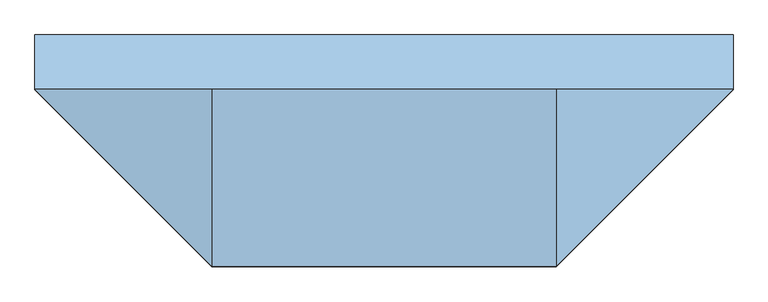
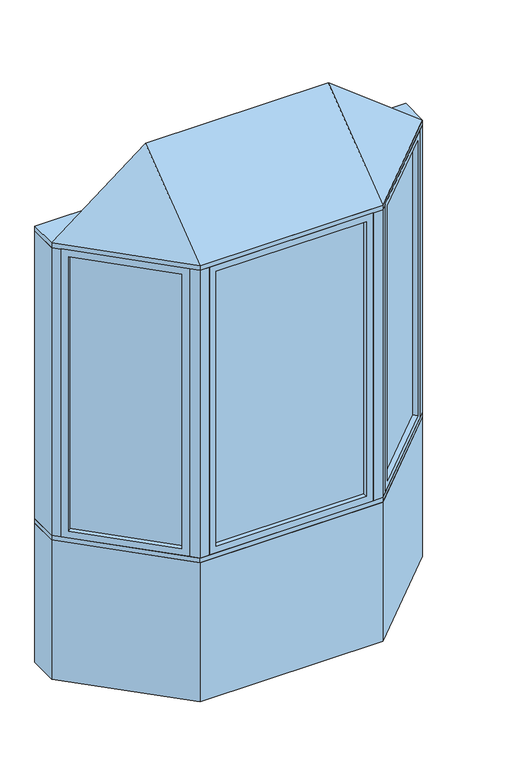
"""IFC4 building model written with IfcOpenShell, lengths in millimetres: window geometry, Pollard_Windows_Tudor Casement Bows and Bays : AML-BAY 45 AFR0616-08-600."""

import ifcopenshell
import ifcopenshell.guid

model = None  # the IFC model being written
_history = None  # IfcOwnerHistory: only IFC2X3 demands one
_inside = {}  # id of a spatial element -> (the spatial element, [elements in it])
_under = {}  # id of a project, library or spatial element -> (it, [spatial elements below it])
_declared = {}  # id of a project -> (the project, [libraries it declares])
_typed = {}  # id of a type object -> (the type object, [elements of that type])
_made_of = {}  # id of a material, layer set ... -> (it, [elements and type objects made of it])


def new_model(schema):
    """Start an empty IFC model of exactly this schema.

    Asked for "IFC4X3", IfcOpenShell would pick the latest addendum, in which some entities
    have other attributes; the version numbers below select the first issue.
    IFC2X3 requires an IfcOwnerHistory on every rooted entity: one is made here for all.
    """
    global model, _history
    if schema == "IFC4X3":
        model = ifcopenshell.file(schema_version=(4, 3, 0, 0))
    else:
        model = ifcopenshell.file(schema=schema)
    _inside.clear()
    _under.clear()
    _declared.clear()
    _typed.clear()
    _made_of.clear()
    _history = None
    if model.schema == "IFC2X3":
        org = make("IfcOrganization", Name="unknown")
        user = make(
            "IfcPersonAndOrganization",
            ThePerson=make("IfcPerson", FamilyName="unknown"),
            TheOrganization=org,
        )
        app = make(
            "IfcApplication",
            ApplicationDeveloper=org,
            Version="unknown",
            ApplicationFullName="unknown",
            ApplicationIdentifier="unknown",
        )
        _history = make(
            "IfcOwnerHistory",
            OwningUser=user,
            OwningApplication=app,
            ChangeAction="ADDED",
            CreationDate=0,
        )
    return model


def make(cls, **values):
    """One entity of the class cls with the attributes given. An attribute that is None is left unset."""
    return model.create_entity(
        cls, **{name: value for name, value in values.items() if value is not None}
    )


def rooted(cls, **values):
    """An entity with a GlobalId (a new one), such as an element, a storey or a relation."""
    return make(cls, GlobalId=ifcopenshell.guid.new(), OwnerHistory=_history, **values)


def si_unit(unit_type, name, prefix=None):
    """IfcSIUnit, for example si_unit("LENGTHUNIT", "METRE", prefix="MILLI")."""
    return make("IfcSIUnit", UnitType=unit_type, Prefix=prefix, Name=name)


def assignment(units):
    """IfcUnitAssignment: the units of a project."""
    return None if units is None else make("IfcUnitAssignment", Units=units)


def point(xyz):
    """IfcCartesianPoint."""
    return None if xyz is None else make("IfcCartesianPoint", Coordinates=xyz)


def direction(xyz):
    """IfcDirection."""
    return None if xyz is None else make("IfcDirection", DirectionRatios=xyz)


def frame(location, z_axis=None, x_axis=None):
    """IfcAxis2Placement3D, a coordinate frame: its origin and axes. An axis left out is left unset."""
    return make(
        "IfcAxis2Placement3D",
        Location=point(location),
        Axis=direction(z_axis),
        RefDirection=direction(x_axis),
    )


def origin():
    """The frame at (0, 0, 0) with its axes left unset."""
    return frame((0.0, 0.0, 0.0))


def origin_with_axes():
    """The frame at (0, 0, 0) with the z axis (0, 0, 1) and the x axis (1, 0, 0) written out."""
    return frame((0.0, 0.0, 0.0), z_axis=(0.0, 0.0, 1.0), x_axis=(1.0, 0.0, 0.0))


def place(relative_to, where):
    """IfcLocalPlacement: puts the frame where relative to a parent placement (None: the world)."""
    return make(
        "IfcLocalPlacement", PlacementRelTo=relative_to, RelativePlacement=where
    )


def context(
    kind, dimensions, precision=None, world=None, true_north=None, identifier=None
):
    """IfcGeometricRepresentationContext, for example the 3D "Model" context."""
    return make(
        "IfcGeometricRepresentationContext",
        ContextIdentifier=identifier,
        ContextType=kind,
        CoordinateSpaceDimension=dimensions,
        Precision=precision,
        WorldCoordinateSystem=world,
        TrueNorth=true_north,
    )


def project(units=None, contexts=None):
    """IfcProject with its units and contexts."""
    return rooted(
        "IfcProject",
        Name="project",
        RepresentationContexts=contexts,
        UnitsInContext=assignment(units),
    )


def spatial(cls, under=None, at=None, **own):
    """A site, building, storey or space (cls), placed at a placement, below another one or the project."""
    s = rooted(cls, ObjectPlacement=at, **own)
    if under is not None:
        _under.setdefault(under.id(), (under, []))[1].append(s)
    return s


def polyline(points):
    """IfcPolyline through the points."""
    return make("IfcPolyline", Points=[point(p) for p in points])


def outline(outer, holes=None, kind="AREA"):
    """IfcArbitraryClosedProfileDef: a profile drawn as a closed curve; with holes, ...WithVoids."""
    if holes is None:
        return make("IfcArbitraryClosedProfileDef", ProfileType=kind, OuterCurve=outer)
    return make(
        "IfcArbitraryProfileDefWithVoids",
        ProfileType=kind,
        OuterCurve=outer,
        InnerCurves=holes,
    )


def extrude(swept, where, along, depth):
    """IfcExtrudedAreaSolid: the profile swept, set in the frame where, extruded along a direction by depth."""
    return make(
        "IfcExtrudedAreaSolid",
        SweptArea=swept,
        Position=where,
        ExtrudedDirection=direction(along),
        Depth=depth,
    )


def faces_of(points, faces, orient=None, outer=None):
    """IfcFace entities. A face is a list of loops; a loop is a list of indices into points, from 0.

    orient and outer hold one flag for each loop. By default every Orientation is true, the
    first loop of a face is its IfcFaceOuterBound and the others are IfcFaceBound.
    """
    made = []
    for i, loops in enumerate(faces):
        bounds = []
        for j, loop in enumerate(loops):
            is_outer = j == 0 if outer is None else outer[i][j]
            bounds.append(
                make(
                    "IfcFaceOuterBound" if is_outer else "IfcFaceBound",
                    Bound=make("IfcPolyLoop", Polygon=[points[k] for k in loop]),
                    Orientation=True if orient is None else orient[i][j],
                )
            )
        made.append(make("IfcFace", Bounds=bounds))
    return made


def faceted_brep(points, faces, orient=None, outer=None, voids=None):
    """IfcFacetedBrep: a solid bounded by flat faces; with voids (closed shells), ...WithVoids."""
    shared = [point(p) for p in points]
    hull = make("IfcClosedShell", CfsFaces=faces_of(shared, faces, orient, outer))
    if voids is None:
        return make("IfcFacetedBrep", Outer=hull)
    return make(
        "IfcFacetedBrepWithVoids",
        Outer=hull,
        Voids=[
            make(cls, CfsFaces=faces_of(shared, fs, o, b)) for cls, fs, o, b in voids
        ],
    )


def shape(context_of_items, identifier, shape_type, items):
    """IfcShapeRepresentation: the items that make up one representation, for example the "Body"."""
    return make(
        "IfcShapeRepresentation",
        ContextOfItems=context_of_items,
        RepresentationIdentifier=identifier,
        RepresentationType=shape_type,
        Items=items,
    )


def source(mapping_origin, context_of_items, identifier, shape_type, items):
    """IfcRepresentationMap: a shape defined once, which mapped items show again and again."""
    return make(
        "IfcRepresentationMap",
        MappingOrigin=mapping_origin,
        MappedRepresentation=shape(context_of_items, identifier, shape_type, items),
    )


def transform(
    local_origin,
    x_axis=None,
    y_axis=None,
    z_axis=None,
    scale=None,
    scale2=None,
    scale3=None,
    uniform=True,
):
    """IfcCartesianTransformationOperator3D, or its non-uniform kind. x_axis, y_axis, z_axis: its Axis1, 2, 3."""
    if uniform:
        return make(
            "IfcCartesianTransformationOperator3D",
            Axis1=direction(x_axis),
            Axis2=direction(y_axis),
            LocalOrigin=point(local_origin),
            Scale=scale,
            Axis3=direction(z_axis),
        )
    return make(
        "IfcCartesianTransformationOperator3DnonUniform",
        Axis1=direction(x_axis),
        Axis2=direction(y_axis),
        LocalOrigin=point(local_origin),
        Scale=scale,
        Axis3=direction(z_axis),
        Scale2=scale2,
        Scale3=scale3,
    )


def mapped(mapping_source, mapping_target):
    """IfcMappedItem: shows the shape of a source again, moved by a transform."""
    return make(
        "IfcMappedItem", MappingSource=mapping_source, MappingTarget=mapping_target
    )


def made_of(thing, what):
    """Note that an element or type object is made of a material, layer set ...; save() writes the relation."""
    if what is not None:
        _made_of.setdefault(what.id(), (what, []))[1].append(thing)
    return thing


def element(
    cls,
    number,
    at=None,
    inside=None,
    cuts=None,
    type_object=None,
    material=None,
    context=None,
    identifier="Body",
    shape_type=None,
    held_by="IfcProductDefinitionShape",
    body=None,
    shapes=None,
    **own,
):
    """One element of the class cls, such as IfcWall. Its Tag is "e" and its number.

    at: its placement. inside: the storey or other place that contains it. cuts: it is an
    opening in that element (IfcRelVoidsElement). A single representation is given by context,
    identifier, shape_type and body (its items); several are given by shapes. held_by: the class
    of the entity that holds the representations. save() writes the other relations.
    """
    e = rooted(cls, Tag="e%d" % number, ObjectPlacement=at, **own)
    if body is not None:
        shapes = [shape(context, identifier, shape_type, body)]
    if shapes is not None:
        e.Representation = make(held_by, Representations=shapes)
    if inside is not None:
        _inside.setdefault(inside.id(), (inside, []))[1].append(e)
    if cuts is not None:
        rooted(
            "IfcRelVoidsElement", RelatingBuildingElement=cuts, RelatedOpeningElement=e
        )
    if type_object is not None:
        _typed.setdefault(type_object.id(), (type_object, []))[1].append(e)
    return made_of(e, material)


def aggregate(whole, parts):
    """IfcRelAggregates: a whole, such as a stair, and the parts it consists of."""
    return rooted("IfcRelAggregates", RelatingObject=whole, RelatedObjects=parts)


def save(model, path):
    """Write the relations noted so far, then the file.

    IfcRelAggregates (storeys below a building ...), IfcRelContainedInSpatialStructure (elements
    in a storey), IfcRelDefinesByType, IfcRelAssociatesMaterial and IfcRelDeclares: one each for
    every whole, place, type object, material and project.
    """
    for whole, parts in _under.values():
        aggregate(whole, parts)
    for where, things in _inside.values():
        rooted(
            "IfcRelContainedInSpatialStructure",
            RelatedElements=things,
            RelatingStructure=where,
        )
    for kind, things in _typed.values():
        rooted("IfcRelDefinesByType", RelatedObjects=things, RelatingType=kind)
    for what, things in _made_of.values():
        rooted("IfcRelAssociatesMaterial", RelatedObjects=things, RelatingMaterial=what)
    for by, libraries in _declared.values():
        rooted("IfcRelDeclares", RelatingContext=by, RelatedDefinitions=libraries)
    model.write(path)


def window_b25b2941(model_context):
    return source(origin(), model_context, "Body", "SolidModel", [
        extrude(outline(polyline([(910.5964271, -104.763169), (514.974814, -500.3847822), (511.3827115, -496.7926797), (907.0043247, -101.1710666), (910.5964271, -104.763169)])), frame((0.0, 0.0, 823.1628), z_axis=(0.0, 0.0, 1.0), x_axis=(1.0, 0.0, 0.0)), (0.0, 0.0, 1.0), 1553.6704),
        faceted_brep([(901.616171, -113.7434252, 835.8628), (919.5766833, -131.7039374, 835.8628), (919.5766833, -131.7039374, 2364.1332), (901.616171, -113.7434252, 2364.1332), (907.0043247, -101.1710666, 823.1628), (910.5964271, -104.763169, 823.1628), (910.5964271, -104.763169, 2376.8332), (907.0043247, -101.1710666, 2376.8332), (880.0635563, -92.1908105, 835.8628), (898.0240686, -110.1513227, 835.8628), (898.0240686, -110.1513227, 2364.1332), (880.0635563, -92.1908105, 2364.1332), (944.9369265, -106.3436941, 799.998), (905.4237996, -66.8305672, 799.998), (905.4237996, -66.8305672, 2399.998), (944.9369265, -106.3436941, 2399.998), (541.9155823, -509.3650383, 2364.1332), (523.9550701, -491.4045261, 2364.1332), (514.974814, -500.3847822, 2376.8332), (511.3827115, -496.7926797, 2376.8332), (520.3629677, -487.8124236, 2364.1332), (502.4024554, -469.8519114, 2364.1332), (477.0422121, -495.2121547, 2399.998), (516.5553391, -534.7252816, 2399.998), (541.9155823, -509.3650383, 835.8628), (523.9550701, -491.4045261, 835.8628), (514.974814, -500.3847822, 823.1628), (511.3827115, -496.7926797, 823.1628), (520.3629677, -487.8124236, 835.8628), (502.4024554, -469.8519114, 835.8628), (477.0422121, -495.2121547, 799.998), (516.5553391, -534.7252816, 799.998)], [[[0, 1, 2, 3]], [[4, 5, 6, 7]], [[8, 9, 10, 11]], [[12, 13, 14, 15]], [[3, 2, 16, 17]], [[7, 6, 18, 19]], [[11, 10, 20, 21]], [[15, 14, 22, 23]], [[17, 16, 24, 25]], [[19, 18, 26, 27]], [[21, 20, 28, 29]], [[23, 22, 30, 31]], [[25, 24, 1, 0]], [[5, 26, 18, 6], [3, 17, 25, 0]], [[27, 26, 5, 4]], [[7, 19, 27, 4], [9, 28, 20, 10]], [[29, 28, 9, 8]], [[13, 30, 22, 14], [11, 21, 29, 8]], [[31, 30, 13, 12]], [[15, 23, 31, 12], [1, 24, 16, 2]]]),
        extrude(outline(polyline([(-514.974814, -500.3847822), (-910.5964271, -104.763169), (-907.0043247, -101.1710666), (-511.3827115, -496.7926797), (-514.974814, -500.3847822)])), frame((0.0, 0.0, 823.1628), z_axis=(0.0, 0.0, 1.0), x_axis=(1.0, 0.0, 0.0)), (0.0, 0.0, 1.0), 1553.6704),
        faceted_brep([(-520.3629677, -487.8124236, 2364.1332), (-502.4024554, -469.8519114, 2364.1332), (-502.4024554, -469.8519114, 835.8628), (-520.3629677, -487.8124236, 835.8628), (-514.974814, -500.3847822, 2376.8332), (-511.3827115, -496.7926797, 2376.8332), (-511.3827115, -496.7926797, 823.1628), (-514.974814, -500.3847822, 823.1628), (-541.9155823, -509.3650383, 2364.1332), (-523.9550701, -491.4045261, 2364.1332), (-523.9550701, -491.4045261, 835.8628), (-541.9155823, -509.3650383, 835.8628), (-477.0422121, -495.2121547, 2399.998), (-516.5553391, -534.7252816, 2399.998), (-516.5553391, -534.7252816, 799.998), (-477.0422121, -495.2121547, 799.998), (-880.0635563, -92.1908105, 835.8628), (-898.0240686, -110.1513227, 835.8628), (-907.0043247, -101.1710666, 823.1628), (-910.5964271, -104.763169, 823.1628), (-901.616171, -113.7434252, 835.8628), (-919.5766833, -131.7039374, 835.8628), (-944.9369265, -106.3436941, 799.998), (-905.4237996, -66.8305672, 799.998), (-880.0635563, -92.1908105, 2364.1332), (-898.0240686, -110.1513227, 2364.1332), (-907.0043247, -101.1710666, 2376.8332), (-910.5964271, -104.763169, 2376.8332), (-901.616171, -113.7434252, 2364.1332), (-919.5766833, -131.7039374, 2364.1332), (-944.9369265, -106.3436941, 2399.998), (-905.4237996, -66.8305672, 2399.998)], [[[0, 1, 2, 3]], [[4, 5, 6, 7]], [[8, 9, 10, 11]], [[12, 13, 14, 15]], [[3, 2, 16, 17]], [[7, 6, 18, 19]], [[11, 10, 20, 21]], [[15, 14, 22, 23]], [[17, 16, 24, 25]], [[19, 18, 26, 27]], [[21, 20, 28, 29]], [[23, 22, 30, 31]], [[15, 23, 31, 12], [1, 24, 16, 2]], [[25, 24, 1, 0]], [[5, 26, 18, 6], [3, 17, 25, 0]], [[27, 26, 5, 4]], [[7, 19, 27, 4], [9, 28, 20, 10]], [[29, 28, 9, 8]], [[13, 30, 22, 14], [11, 21, 29, 8]], [[31, 30, 13, 12]]]),
        extrude(outline(polyline([(408.0352, -544.6806207), (-408.0352, -544.6806207), (-408.0352, -539.6006207), (408.0352, -539.6006207), (408.0352, -544.6806207)])), frame((0.0, 0.0, 823.1628), z_axis=(0.0, 0.0, 1.0), x_axis=(1.0, 0.0, 0.0)), (0.0, 0.0, 1.0), 1553.6704),
        faceted_brep([(395.3352, -544.6806207, 835.8628), (395.3352, -570.0806207, 835.8628), (395.3352, -570.0806207, 2364.1332), (395.3352, -544.6806207, 2364.1332), (408.0352, -539.6006207, 823.1628), (408.0352, -544.6806207, 823.1628), (408.0352, -544.6806207, 2376.8332), (408.0352, -539.6006207, 2376.8332), (395.3352, -514.2006207, 835.8628), (395.3352, -539.6006207, 835.8628), (395.3352, -539.6006207, 2364.1332), (395.3352, -514.2006207, 2364.1332), (431.2, -570.0806207, 799.998), (431.2, -514.2006207, 799.998), (431.2, -514.2006207, 2399.998), (431.2, -570.0806207, 2399.998), (-395.3352, -570.0806207, 2364.1332), (-395.3352, -544.6806207, 2364.1332), (-408.0352, -544.6806207, 2376.8332), (-408.0352, -539.6006207, 2376.8332), (-395.3352, -539.6006207, 2364.1332), (-395.3352, -514.2006207, 2364.1332), (-431.2, -514.2006207, 2399.998), (-431.2, -570.0806207, 2399.998), (-395.3352, -570.0806207, 835.8628), (-395.3352, -544.6806207, 835.8628), (-408.0352, -544.6806207, 823.1628), (-408.0352, -539.6006207, 823.1628), (-395.3352, -539.6006207, 835.8628), (-395.3352, -514.2006207, 835.8628), (-431.2, -514.2006207, 799.998), (-431.2, -570.0806207, 799.998)], [[[0, 1, 2, 3]], [[4, 5, 6, 7]], [[8, 9, 10, 11]], [[12, 13, 14, 15]], [[3, 2, 16, 17]], [[7, 6, 18, 19]], [[11, 10, 20, 21]], [[15, 14, 22, 23]], [[17, 16, 24, 25]], [[19, 18, 26, 27]], [[21, 20, 28, 29]], [[23, 22, 30, 31]], [[15, 23, 31, 12], [1, 24, 16, 2]], [[25, 24, 1, 0]], [[5, 26, 18, 6], [3, 17, 25, 0]], [[27, 26, 5, 4]], [[7, 19, 27, 4], [9, 28, 20, 10]], [[29, 28, 9, 8]], [[13, 30, 22, 14], [11, 21, 29, 8]], [[31, 30, 13, 12]]]),
        faceted_brep([(976.5, -74.7806207, 2425.398), (481.2, -570.0806207, 2425.398), (-481.2, -570.0806207, 2425.398), (-976.5, -74.7806207, 2425.398), (-481.2, -74.7806207, 2806.398), (481.2, -74.7806207, 2806.398)], [[[0, 1, 2, 3]], [[3, 2, 4]], [[2, 1, 5, 4]], [[1, 0, 5]], [[0, 3, 4, 5]]]),
        extrude(outline(polyline([(-976.5, 77.6193793), (976.5, 77.6193793), (976.5, -74.7806207), (481.2, -570.0806207), (-481.2, -570.0806207), (-976.5, -74.7806207), (-976.5, 77.6193793)])), frame((0.0, 0.0, 2399.998), z_axis=(0.0, 0.0, 1.0), x_axis=(1.0, 0.0, 0.0)), (0.0, 0.0, 1.0), 25.4),
        extrude(outline(polyline([(-976.5, -74.7806207), (-976.5, 77.6193793), (-913.3738531, 77.6193793), (-913.3738531, -74.7806207), (-944.9369265, -106.3436941), (-976.5, -74.7806207)])), frame((0.0, 0.0, 799.998), z_axis=(0.0, 0.0, 1.0), x_axis=(1.0, 0.0, 0.0)), (0.0, 0.0, 1.0), 1600.0),
        extrude(outline(polyline([(976.5, 77.6193793), (976.5, -74.7806207), (944.9369265, -106.3436941), (913.3738531, -74.7806207), (913.3738531, 77.6193793), (976.5, 77.6193793)])), frame((0.0, 0.0, 799.998), z_axis=(0.0, 0.0, 1.0), x_axis=(1.0, 0.0, 0.0)), (0.0, 0.0, 1.0), 1600.0),
        extrude(outline(polyline([(481.2, -570.0806207), (431.2, -570.0806207), (431.2, -520.0806207), (460.4893219, -520.0806207), (481.2, -499.3699425), (516.5553391, -534.7252816), (481.2, -570.0806207)])), frame((0.0, 0.0, 799.998), z_axis=(0.0, 0.0, 1.0), x_axis=(1.0, 0.0, 0.0)), (0.0, 0.0, 1.0), 1600.0),
        extrude(outline(polyline([(-481.2, -570.0806207), (-516.5553391, -534.7252816), (-481.2, -499.3699425), (-460.4893219, -520.0806207), (-431.2, -520.0806207), (-431.2, -570.0806207), (-481.2, -570.0806207)])), frame((0.0, 0.0, 799.998), z_axis=(0.0, 0.0, 1.0), x_axis=(1.0, 0.0, 0.0)), (0.0, 0.0, 1.0), 1600.0),
        extrude(outline(polyline([(-481.2, -570.0806207), (-976.5, -74.7806207), (-976.5, 77.6193793), (-913.3738531, 77.6193793), (-418.0738531, -417.6806207), (418.0738531, -417.6806207), (913.3738531, 77.6193793), (976.5, 77.6193793), (976.5, -74.7806207), (481.2, -570.0806207), (-481.2, -570.0806207)])), frame((0.0, 0.0, 774.598), z_axis=(0.0, 0.0, 1.0), x_axis=(1.0, 0.0, 0.0)), (0.0, 0.0, 1.0), 25.4),
        extrude(outline(polyline([(-976.5, -74.7806207), (-976.5, 77.6193793), (-913.3738531, 77.6193793), (-418.0738531, -417.6806207), (418.0738531, -417.6806207), (913.3738531, 77.6193793), (976.5, 77.6193793), (976.5, -74.7806207), (481.2, -570.0806207), (-481.2, -570.0806207), (-976.5, -74.7806207)])), origin_with_axes(), (0.0, 0.0, 1.0), 774.598),
    ])


if __name__ == "__main__":
    model = new_model("IFC4")
    model_context = context("Model", 3, world=origin())
    ifc_project = project(units=[si_unit("LENGTHUNIT", "METRE", prefix="MILLI")], contexts=[model_context])
    site = spatial("IfcSite", under=ifc_project)
    building = spatial("IfcBuilding", under=site)
    placement = place(None, origin())
    window_shape = window_b25b2941(model_context)
    element("IfcWindow", 1, ObjectType="Pollard_Windows_Tudor Casement Bows and Bays : AML-BAY 45 AFR0616-08-600", at=placement, inside=building, context=model_context, shape_type="MappedRepresentation", body=[
        mapped(window_shape, transform((0.0, 0.0, 0.0), x_axis=(1.0, 0.0, 0.0), y_axis=(0.0, 1.0, 0.0), z_axis=(0.0, 0.0, 1.0))),
    ])
    save(model, "model.ifc")
